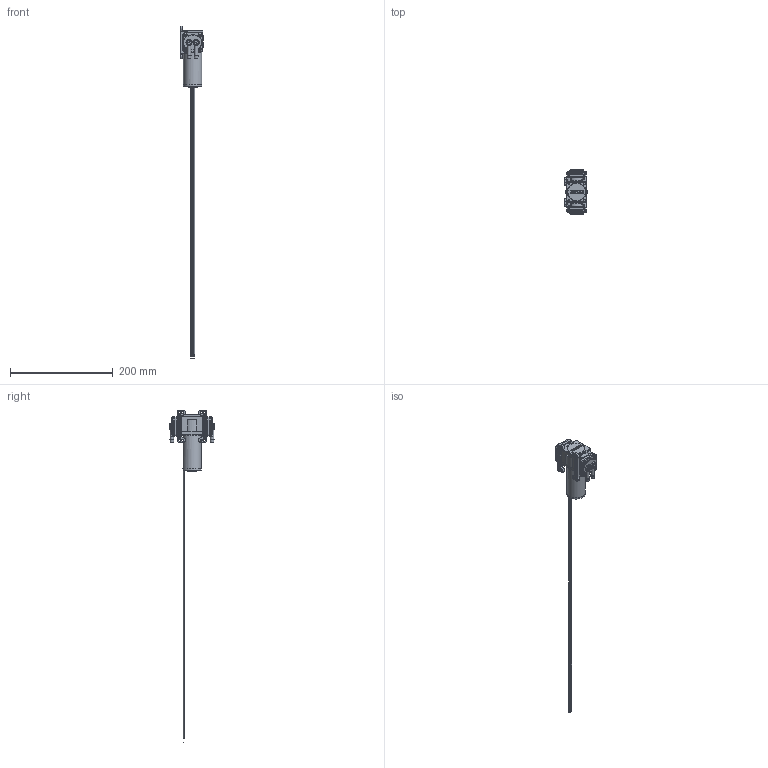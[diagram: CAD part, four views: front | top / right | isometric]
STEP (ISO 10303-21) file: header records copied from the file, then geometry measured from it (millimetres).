
FILE_DESCRIPTION (( 'STEP AP214' ), '1' );
FILE_NAME ('3112.6xx_Rev00_Assy.STEP', '2023-08-01T10:35:05', ( '' ), ( '' ), 'SwSTEP 2.0', 'SolidWorks 2021', '' );
FILE_SCHEMA (( 'AUTOMOTIVE_DESIGN' ));
Length unit declared in the file: millimetre
Products named in the file (1): 3112.6xx_Rev00_Assy
Bounding box: 44.4 x 86.4 x 647.53 mm (x, y, z)
Volume: 79562.5 mm3; surface area: 78032.2 mm2
Topology: 30 solids, 30 shells, 1328 faces, 3185 edges, 2120 vertices
Faces by surface type: plane 510, cylinder 441, cone 275, bspline 61, torus 41
Full cylindrical faces by diameter (mm): 0.8 x4, 1.4 x4, 2 x8, 2.4 x60, 2.5 x10, 3.4 x20, 3.5 x11, 3.9 x4, 4.2 x24, 4.5 x4, 6 x1, 6.5 x4, 7.5 x4, 8 x4, 10 x2, 18 x3, 30.336 x4, 32 x1, 34 x3, 36 x2
Entity records: 57130 total; most frequent: CARTESIAN_POINT 14410, DIRECTION 5505, ORIENTED_EDGE 5272, EDGE_CURVE 2636, AXIS2_PLACEMENT_3D 2275, EDGE_LOOP 2044, VERTEX_POINT 1956, FACE_OUTER_BOUND 1536
